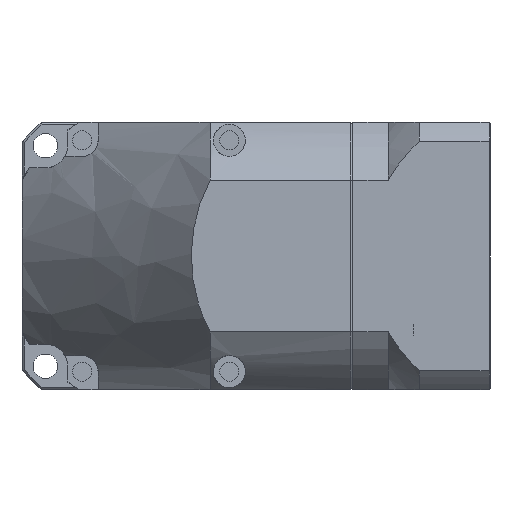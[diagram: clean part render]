
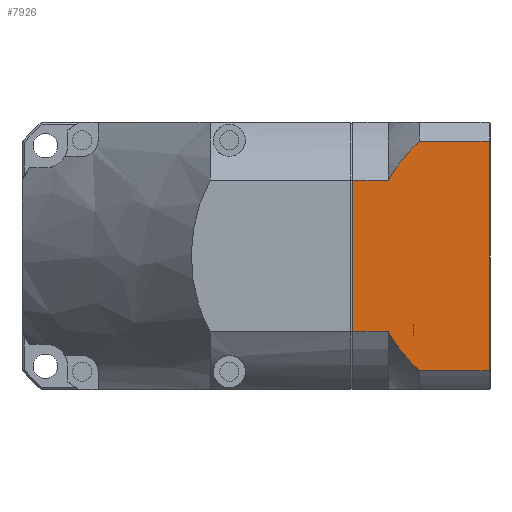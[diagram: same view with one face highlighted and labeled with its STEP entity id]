
A CAD part, front view. The second image highlights one B-rep face of the part: STEP entity #7926.
In plain terms, the highlighted planar face has unit normal (0, -1, 0) as drawn and (-1, 0, 0) by its records, which use the part's own axes.
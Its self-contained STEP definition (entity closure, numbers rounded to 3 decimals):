
#82 = CARTESIAN_POINT ( 'NONE',  ( -30., 0., -17.037 ) ) ;
#420 = VECTOR ( 'NONE', #7890, 1000. ) ;
#645 = CIRCLE ( 'NONE', #6069, 34.644 ) ;
#706 = VERTEX_POINT ( 'NONE', #7362 ) ;
#1233 = VECTOR ( 'NONE', #5070, 1000. ) ;
#1512 = CARTESIAN_POINT ( 'NONE',  ( -30., 0., 25.695 ) ) ;
#1590 = EDGE_CURVE ( 'NONE', #6191, #10004, #3551, .T. ) ;
#1730 = CARTESIAN_POINT ( 'NONE',  ( -30., -32.128, 25.695 ) ) ;
#1896 = ORIENTED_EDGE ( 'NONE', *, *, #14428, .T. ) ;
#2360 = PLANE ( 'NONE',  #9368 ) ;
#2492 = EDGE_CURVE ( 'NONE', #7143, #5849, #11839, .T. ) ;
#2546 = CARTESIAN_POINT ( 'NONE',  ( -30., 0., -25.695 ) ) ;
#2614 = VECTOR ( 'NONE', #9608, 1000. ) ;
#3499 = VERTEX_POINT ( 'NONE', #4722 ) ;
#3546 = DIRECTION ( 'NONE',  ( 0., 0., 1. ) ) ;
#3551 = LINE ( 'NONE', #14282, #420 ) ;
#3670 = LINE ( 'NONE', #82, #9078 ) ;
#3957 = LINE ( 'NONE', #2546, #10084 ) ;
#4130 = VECTOR ( 'NONE', #13557, 1000. ) ;
#4179 = EDGE_CURVE ( 'NONE', #13648, #4302, #8648, .T. ) ;
#4302 = VERTEX_POINT ( 'NONE', #10242 ) ;
#4486 = CARTESIAN_POINT ( 'NONE',  ( -30., -55.366, 0. ) ) ;
#4722 = CARTESIAN_POINT ( 'NONE',  ( -30., -47.8, -25.695 ) ) ;
#4791 = EDGE_CURVE ( 'NONE', #6191, #706, #10262, .T. ) ;
#5070 = DIRECTION ( 'NONE',  ( 0., 0., 1. ) ) ;
#5628 = DIRECTION ( 'NONE',  ( 0., 0., 1. ) ) ;
#5849 = VERTEX_POINT ( 'NONE', #13219 ) ;
#5852 = CARTESIAN_POINT ( 'NONE',  ( -30., -32.128, -25.695 ) ) ;
#6069 = AXIS2_PLACEMENT_3D ( 'NONE', #4486, #12564, #5628 ) ;
#6191 = VERTEX_POINT ( 'NONE', #13827 ) ;
#6540 = DIRECTION ( 'NONE',  ( 1., 0., 0. ) ) ;
#7042 = DIRECTION ( 'NONE',  ( 0., 1., 0. ) ) ;
#7143 = VERTEX_POINT ( 'NONE', #1730 ) ;
#7257 = ORIENTED_EDGE ( 'NONE', *, *, #8892, .F. ) ;
#7291 = FACE_OUTER_BOUND ( 'NONE', #12136, .T. ) ;
#7362 = CARTESIAN_POINT ( 'NONE',  ( -30., -25.2, 17.037 ) ) ;
#7412 = LINE ( 'NONE', #13103, #1233 ) ;
#7722 = ORIENTED_EDGE ( 'NONE', *, *, #14192, .F. ) ;
#7890 = DIRECTION ( 'NONE',  ( 0., 0., -1. ) ) ;
#7926 = ADVANCED_FACE ( 'NONE', ( #7291 ), #2360, .T. ) ;
#8105 = ORIENTED_EDGE ( 'NONE', *, *, #2492, .F. ) ;
#8648 = CIRCLE ( 'NONE', #14735, 34.644 ) ;
#8855 = CARTESIAN_POINT ( 'NONE',  ( -30., -17.2, -17.037 ) ) ;
#8892 = EDGE_CURVE ( 'NONE', #4302, #10004, #3670, .T. ) ;
#9078 = VECTOR ( 'NONE', #7042, 1000. ) ;
#9368 = AXIS2_PLACEMENT_3D ( 'NONE', #15020, #10447, #3546 ) ;
#9608 = DIRECTION ( 'NONE',  ( 0., -1., 0. ) ) ;
#10004 = VERTEX_POINT ( 'NONE', #8855 ) ;
#10084 = VECTOR ( 'NONE', #11746, 1000. ) ;
#10171 = ORIENTED_EDGE ( 'NONE', *, *, #12736, .T. ) ;
#10242 = CARTESIAN_POINT ( 'NONE',  ( -30., -25.2, -17.037 ) ) ;
#10262 = LINE ( 'NONE', #12348, #4130 ) ;
#10447 = DIRECTION ( 'NONE',  ( -1., 0., 0. ) ) ;
#10959 = ORIENTED_EDGE ( 'NONE', *, *, #1590, .T. ) ;
#11746 = DIRECTION ( 'NONE',  ( 0., -1., 0. ) ) ;
#11839 = LINE ( 'NONE', #1512, #2614 ) ;
#12136 = EDGE_LOOP ( 'NONE', ( #12212, #10959, #7257, #14877, #1896, #10171, #8105, #7722 ) ) ;
#12212 = ORIENTED_EDGE ( 'NONE', *, *, #4791, .F. ) ;
#12348 = CARTESIAN_POINT ( 'NONE',  ( -30., 0., 17.037 ) ) ;
#12564 = DIRECTION ( 'NONE',  ( 1., 0., 0. ) ) ;
#12736 = EDGE_CURVE ( 'NONE', #3499, #5849, #7412, .T. ) ;
#13103 = CARTESIAN_POINT ( 'NONE',  ( -30., -47.8, -30. ) ) ;
#13219 = CARTESIAN_POINT ( 'NONE',  ( -30., -47.8, 25.695 ) ) ;
#13477 = CARTESIAN_POINT ( 'NONE',  ( -30., -55.366, 0. ) ) ;
#13557 = DIRECTION ( 'NONE',  ( 0., -1., 0. ) ) ;
#13648 = VERTEX_POINT ( 'NONE', #5852 ) ;
#13827 = CARTESIAN_POINT ( 'NONE',  ( -30., -17.2, 17.037 ) ) ;
#14192 = EDGE_CURVE ( 'NONE', #706, #7143, #645, .T. ) ;
#14282 = CARTESIAN_POINT ( 'NONE',  ( -30., -17.2, -30. ) ) ;
#14428 = EDGE_CURVE ( 'NONE', #13648, #3499, #3957, .T. ) ;
#14625 = DIRECTION ( 'NONE',  ( 0., 0., 1. ) ) ;
#14735 = AXIS2_PLACEMENT_3D ( 'NONE', #13477, #6540, #14625 ) ;
#14877 = ORIENTED_EDGE ( 'NONE', *, *, #4179, .F. ) ;
#15020 = CARTESIAN_POINT ( 'NONE',  ( -30., 15., -30. ) ) ;
